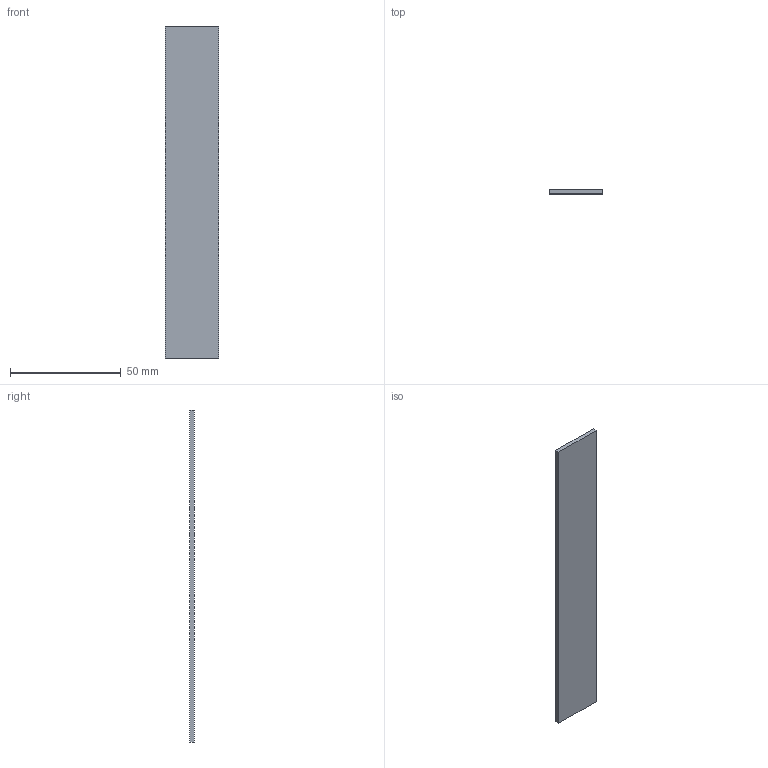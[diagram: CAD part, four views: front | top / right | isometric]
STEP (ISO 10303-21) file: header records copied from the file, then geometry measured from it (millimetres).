
FILE_DESCRIPTION (( 'STEP AP214' ), '1' );
FILE_NAME ('LSNY-00-150-X-X-24V-DIFFUSER.STEP', '2022-05-11T09:44:51', ( '' ), ( '' ), 'SwSTEP 2.0', 'SolidWorks 2021', '' );
FILE_SCHEMA (( 'AUTOMOTIVE_DESIGN' ));
Length unit declared in the file: millimetre
Products named in the file (1): LSNY-00-150-X-X-24V-DIFFUSER
Bounding box: 24 x 1.9 x 150 mm (x, y, z)
Volume: 6840 mm3; surface area: 7861.2 mm2
Topology: 1 solids, 1 shells, 6 faces, 12 edges, 8 vertices
Faces by surface type: plane 6
Entity records: 190 total; most frequent: CARTESIAN_POINT 27, DIRECTION 26, ORIENTED_EDGE 24, LINE 12, EDGE_CURVE 12, VECTOR 12, VERTEX_POINT 8, AXIS2_PLACEMENT_3D 7
